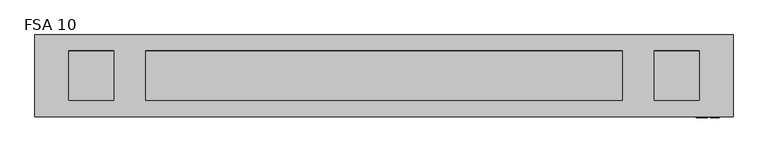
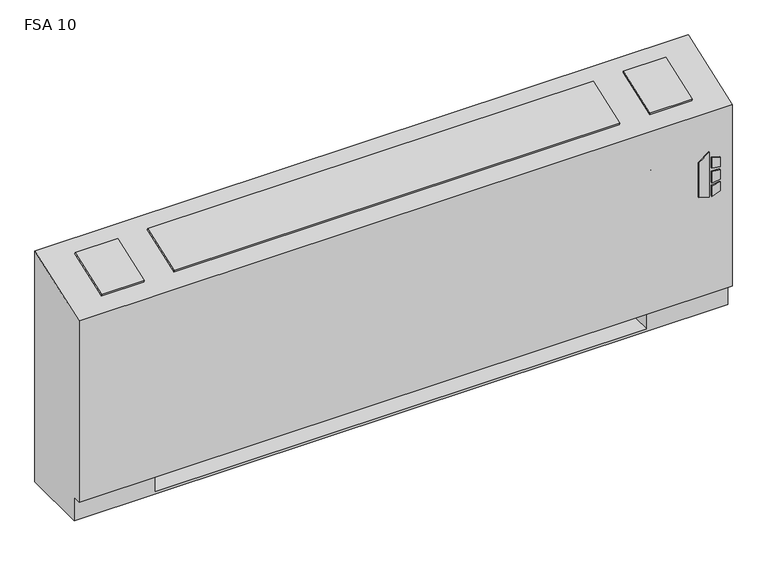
"""IFC4 building model written with IfcOpenShell, lengths in millimetres: proxy geometry, Vertical_Fan_Coil_Unit_-_FSA_-_IEC_-_4-Pipe_TS-FR_RH_2022 : FSA 10."""

from ifc_helpers import new_model, si_unit, point, frame, frame_2d, origin, place, context, project, spatial, polyline, circle_curve, trimmed, segment, composite_curve, outline, extrude, source, transform, mapped, element, save
from ifc_brep_helpers import plane_surface, revolved_surface, advanced_brep


def fsa_10_1d2db063(model_context):
    return source(origin(), model_context, "Body", "SolidModel", [
        extrude(outline(polyline([(391.6086829, 1027.1868862), (381.6606126, 1059.3602728), (523.831537, 1059.3602728), (500.8095309, 1027.1868862), (391.6086829, 1027.1868862)])), frame((0.0, 12.7, 0.0), z_axis=(0.0, 1.0, 0.0), x_axis=(0.0, 0.0, 1.0)), (0.0, 0.0, 1.0), 3.175),
        extrude(outline(polyline([(470.6079683, 1066.1186058), (467.4055757, 1092.2), (496.6344168, 1092.2), (504.6988318, 1066.1186058), (470.6079683, 1066.1186058)])), frame((0.0, 12.7, 0.0), z_axis=(0.0, 1.0, 0.0), x_axis=(0.0, 0.0, 1.0)), (0.0, 0.0, 1.0), 3.175),
        extrude(outline(polyline([(418.7444414, 1092.2), (415.0789404, 1066.1186058), (381.6606126, 1066.1186058), (390.2948498, 1092.2), (418.7444414, 1092.2)])), frame((0.0, 12.7, 0.0), z_axis=(0.0, 1.0, 0.0), x_axis=(0.0, 0.0, 1.0)), (0.0, 0.0, 1.0), 3.175),
        extrude(outline(polyline([(458.0596028, 1092.2), (460.3414292, 1066.1186058), (424.4038806, 1066.1186058), (427.1451456, 1092.2), (458.0596028, 1092.2)])), frame((0.0, 12.7, 0.0), z_axis=(0.0, 1.0, 0.0), x_axis=(0.0, 0.0, 1.0)), (0.0, 0.0, 1.0), 3.175),
        extrude(outline(polyline([(-704.85, 81.534), (-704.85, 223.266), (-584.2, 223.266), (-584.2, 81.534), (-704.85, 81.534)])), frame((0.0, 0.0, 327.025), z_axis=(0.0, 0.0, 1.0), x_axis=(1.0, 0.0, 0.0)), (0.0, 0.0, 1.0), 260.35),
        extrude(outline(composite_curve([segment(trimmed(circle_curve(frame_2d((952.5, 130.175)), 9.525), [point((942.975, 130.175))], [point((962.025, 130.175))], False, "CARTESIAN"), True, "CONTINUOUS"), segment(trimmed(circle_curve(frame_2d((952.5, 130.175)), 9.525), [point((962.025, 130.175))], [point((942.975, 130.175))], False, "CARTESIAN"), True, "CONTINUOUS")], self_intersect=False)), frame((0.0, 0.0, 101.6), z_axis=(0.0, 0.0, 1.0), x_axis=(1.0, 0.0, 0.0)), (0.0, 0.0, 1.0), 25.4),
        extrude(outline(polyline([(1054.1, 196.85), (1054.1, 63.5), (889.0, 63.5), (889.0, 196.85), (1054.1, 196.85)])), frame((0.0, 0.0, 127.0), z_axis=(0.0, 0.0, 1.0), x_axis=(1.0, 0.0, 0.0)), (0.0, 0.0, 1.0), 50.8),
        extrude(outline(polyline([(0.0, -146.0500001), (0.0, 0.0), (127.0, 0.0), (127.0, -146.0500001), (0.0, -146.0500001)])), frame((-731.393, 200.4217127, 714.3418685), z_axis=(0.0, -0.3396444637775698, 0.9405538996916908), x_axis=(1.0, 0.0, 0.0)), (0.0, 0.0, 1.0), 6.35),
        extrude(outline(polyline([(0.0, -146.0500001), (0.0, 0.0), (1333.5, 0.0), (1333.5, -146.0500001), (0.0, -146.0500001)])), frame((819.15, 63.0538156, 664.7367945), z_axis=(0.0, -0.33964446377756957, 0.9405538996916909), x_axis=(-1.0, 0.0, 0.0)), (0.0, 0.0, 1.0), 6.35),
        extrude(outline(polyline([(0.0, -146.0500001), (0.0, 0.0), (127.0, 0.0), (127.0, -146.0500001), (0.0, -146.0500001)])), frame((1036.193, 63.0538156, 664.7367945), z_axis=(0.0, -0.3396444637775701, 0.9405538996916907), x_axis=(-1.0, 0.0, 0.0)), (0.0, 0.0, 1.0), 6.35),
        extrude(outline(composite_curve([segment(trimmed(circle_curve(frame_2d((109.0168, 460.0194)), 7.9375), [point((109.0168, 467.9569))], [point((109.0168, 452.0819))], False, "CARTESIAN"), True, "CONTINUOUS"), segment(trimmed(circle_curve(frame_2d((109.0168, 460.0194)), 7.9375), [point((109.0168, 452.0819))], [point((109.0168, 467.9569))], False, "CARTESIAN"), True, "CONTINUOUS")], self_intersect=False)), frame((889.0, 0.0, 0.0), z_axis=(1.0, 0.0, 0.0), x_axis=(0.0, 1.0, 0.0)), (0.0, 0.0, 1.0), 50.8),
        extrude(outline(composite_curve([segment(trimmed(circle_curve(frame_2d((172.085, 460.0194)), 7.9375), [point((172.085, 467.9569))], [point((172.085, 452.0819))], False, "CARTESIAN"), True, "CONTINUOUS"), segment(trimmed(circle_curve(frame_2d((172.085, 460.0194)), 7.9375), [point((172.085, 452.0819))], [point((172.085, 467.9569))], False, "CARTESIAN"), True, "CONTINUOUS")], self_intersect=False)), frame((889.0, 0.0, 0.0), z_axis=(1.0, 0.0, 0.0), x_axis=(0.0, 1.0, 0.0)), (0.0, 0.0, 1.0), 50.8),
        extrude(outline(composite_curve([segment(trimmed(circle_curve(frame_2d((130.175, 554.99)), 7.9502), [point((130.175, 562.9402))], [point((130.175, 547.0398))], False, "CARTESIAN"), True, "CONTINUOUS"), segment(trimmed(circle_curve(frame_2d((130.175, 554.99)), 7.9502), [point((130.175, 547.0398))], [point((130.175, 562.9402))], False, "CARTESIAN"), True, "CONTINUOUS")], self_intersect=False)), frame((889.0, 0.0, 0.0), z_axis=(1.0, 0.0, 0.0), x_axis=(0.0, 1.0, 0.0)), (0.0, 0.0, 1.0), 50.8),
        extrude(outline(composite_curve([segment(trimmed(circle_curve(frame_2d((53.975, 416.56)), 7.9502), [point((53.975, 424.5102))], [point((53.975, 408.6098))], False, "CARTESIAN"), True, "CONTINUOUS"), segment(trimmed(circle_curve(frame_2d((53.975, 416.56)), 7.9502), [point((53.975, 408.6098))], [point((53.975, 424.5102))], False, "CARTESIAN"), True, "CONTINUOUS")], self_intersect=False)), frame((889.0, 0.0, 0.0), z_axis=(1.0, 0.0, 0.0), x_axis=(0.0, 1.0, 0.0)), (0.0, 0.0, 1.0), 50.8),
        advanced_brep(
        [(-825.5, 244.475, 0.0), (1130.3, 244.475, 0.0), (1130.3, 41.275, 0.0), (-825.5, 41.275, 0.0), (-825.5, 244.475, 730.25), (1130.3, 244.475, 730.25), (889.0, 244.475, 73.025), (1117.6, 244.475, 73.025), (1117.6, 244.475, 654.05), (889.0, 244.475, 654.05), (889.0, 244.475, 414.8650565), (917.575, 244.475, 414.8650565), (917.575, 244.475, 385.2349435), (889.0, 244.475, 385.2349435), (889.0, 244.475, 287.3375), (917.575, 244.475, 287.3375), (917.575, 244.475, 258.7625), (889.0, 244.475, 258.7625), (889.0, 244.475, 141.2875), (917.575, 244.475, 141.2875), (917.575, 244.475, 112.7125), (889.0, 244.475, 112.7125), (-584.2, 244.475, 654.05), (-812.8, 244.475, 654.05), (-812.8, 244.475, 73.025), (-584.2, 244.475, 73.025), (-584.2, 244.475, 112.7125), (-612.775, 244.475, 112.7125), (-612.775, 244.475, 141.2875), (-584.2, 244.475, 141.2875), (-584.2, 244.475, 258.7625), (-612.775, 244.475, 258.7625), (-612.775, 244.475, 287.3375), (-584.2, 244.475, 287.3375), (-584.2, 244.475, 385.2349435), (-612.775, 244.475, 385.2349435), (-612.775, 244.475, 414.8650565), (-584.2, 244.475, 414.8650565), (907.2626, 244.475, 127.0), (896.1374, 244.475, 127.0), (907.2626, 244.475, 400.05), (896.1374, 244.475, 400.05), (907.2626, 244.475, 273.05), (896.1374, 244.475, 273.05), (-591.3374, 244.475, 127.0), (-602.4626, 244.475, 127.0), (-591.3374, 244.475, 273.05), (-602.4626, 244.475, 273.05), (-591.3374, 244.475, 400.05), (-602.4626, 244.475, 400.05), (-825.5, 41.275, 73.025), (-825.5, 15.875, 73.025), (-825.5, 15.875, 647.7), (1130.3, 15.875, 73.025), (1130.3, 15.875, 647.7), (1130.3, 41.275, 73.025), (-584.2, 41.275, 73.025), (-584.2, 225.425, 73.025), (889.0, 225.425, 73.025), (889.0, 41.275, 73.025), (889.0, 41.275, 6.35), (-584.2, 41.275, 6.35), (889.0, 41.275, 654.05), (1117.6, 41.275, 654.05), (1117.6, 41.275, 73.025), (889.0, 41.275, 73.025), (-584.2, 41.275, 654.05), (-584.2, 41.275, 73.025), (-812.8, 41.275, 73.025), (-812.8, 41.275, 654.05), (889.0, 225.425, 73.025), (889.0, 238.125, 112.7125), (889.0, 238.125, 141.2875), (889.0, 238.125, 258.7625), (889.0, 238.125, 287.3375), (889.0, 238.125, 385.2349435), (889.0, 238.125, 414.8650565), (-584.2, 225.425, 73.025), (-584.2, 238.125, 414.8650565), (-584.2, 238.125, 385.2349435), (-584.2, 238.125, 287.3375), (-584.2, 238.125, 258.7625), (-584.2, 238.125, 141.2875), (-584.2, 238.125, 112.7125), (-584.2, 225.425, 6.35), (889.0, 225.425, 6.35), (917.575, 238.125, 112.7125), (917.575, 238.125, 141.2875), (896.1374, 238.125, 127.0), (907.2626, 238.125, 127.0), (917.575, 238.125, 258.7625), (917.575, 238.125, 287.3375), (896.1374, 238.125, 273.05), (907.2626, 238.125, 273.05), (917.575, 238.125, 385.2349435), (917.575, 238.125, 414.8650565), (896.1374, 238.125, 400.05), (907.2626, 238.125, 400.05), (-612.775, 238.125, 141.2875), (-612.775, 238.125, 112.7125), (-602.4626, 238.125, 127.0), (-591.3374, 238.125, 127.0), (-612.775, 238.125, 287.3375), (-612.775, 238.125, 258.7625), (-602.4626, 238.125, 273.05), (-591.3374, 238.125, 273.05), (-612.775, 238.125, 414.8650565), (-612.775, 238.125, 385.2349435), (-602.4626, 238.125, 400.05), (-591.3374, 238.125, 400.05)],
        [
            (0, 1),
            (1, 2),
            (2, 3),
            (3, 0),
            (0, 4),
            (4, 5),
            (5, 1),
            (6, 7),
            (7, 8),
            (8, 9),
            (9, 10),
            (10, 11),
            (11, 12),
            (12, 13),
            (13, 14),
            (14, 15),
            (15, 16),
            (16, 17),
            (17, 18),
            (18, 19),
            (19, 20),
            (20, 21),
            (21, 6),
            (22, 23),
            (23, 24),
            (24, 25),
            (25, 26),
            (26, 27),
            (27, 28),
            (28, 29),
            (29, 30),
            (30, 31),
            (31, 32),
            (32, 33),
            (33, 34),
            (34, 35),
            (35, 36),
            (36, 37),
            (37, 22),
            (38, 39, circle_curve(frame((901.7, 244.475, 127.0), z_axis=(0.0, -1.0, 0.0), x_axis=(-1.0, 0.0, 0.0)), 5.5626)),
            (39, 38, circle_curve(frame((901.7, 244.475, 127.0), z_axis=(0.0, -1.0, 0.0), x_axis=(-1.0, 0.0, 0.0)), 5.5626)),
            (40, 41, circle_curve(frame((901.7, 244.475, 400.05), z_axis=(0.0, -1.0, 0.0), x_axis=(-1.0, 0.0, 0.0)), 5.5626)),
            (41, 40, circle_curve(frame((901.7, 244.475, 400.05), z_axis=(0.0, -1.0, 0.0), x_axis=(-1.0, 0.0, 0.0)), 5.5626)),
            (42, 43, circle_curve(frame((901.7, 244.475, 273.05), z_axis=(0.0, -1.0, 0.0), x_axis=(-1.0, 0.0, 0.0)), 5.5626)),
            (43, 42, circle_curve(frame((901.7, 244.475, 273.05), z_axis=(0.0, -1.0, 0.0), x_axis=(-1.0, 0.0, 0.0)), 5.5626)),
            (44, 45, circle_curve(frame((-596.9, 244.475, 127.0), z_axis=(0.0, -1.0, 0.0), x_axis=(-1.0, 0.0, 0.0)), 5.5626)),
            (45, 44, circle_curve(frame((-596.9, 244.475, 127.0), z_axis=(0.0, -1.0, 0.0), x_axis=(-1.0, 0.0, 0.0)), 5.5626)),
            (46, 47, circle_curve(frame((-596.9, 244.475, 273.05), z_axis=(0.0, -1.0, 0.0), x_axis=(-1.0, 0.0, 0.0)), 5.5626)),
            (47, 46, circle_curve(frame((-596.9, 244.475, 273.05), z_axis=(0.0, -1.0, 0.0), x_axis=(-1.0, 0.0, 0.0)), 5.5626)),
            (48, 49, circle_curve(frame((-596.9, 244.475, 400.05), z_axis=(0.0, -1.0, 0.0), x_axis=(-1.0, 0.0, 0.0)), 5.5626)),
            (49, 48, circle_curve(frame((-596.9, 244.475, 400.05), z_axis=(0.0, -1.0, 0.0), x_axis=(-1.0, 0.0, 0.0)), 5.5626)),
            (3, 50),
            (50, 51),
            (51, 52),
            (52, 4),
            (51, 53),
            (53, 54),
            (54, 52),
            (5, 54),
            (53, 55),
            (55, 2),
            (50, 56),
            (56, 57),
            (57, 58),
            (58, 59),
            (59, 55),
            (59, 60),
            (60, 61),
            (61, 56),
            (62, 63),
            (63, 64),
            (64, 65),
            (65, 62),
            (66, 67),
            (67, 68),
            (68, 69),
            (69, 66),
            (65, 70),
            (70, 6),
            (21, 71),
            (71, 72),
            (72, 18),
            (17, 73),
            (73, 74),
            (74, 14),
            (13, 75),
            (75, 76),
            (76, 10),
            (9, 62),
            (64, 7),
            (63, 8),
            (69, 23),
            (22, 66),
            (68, 24),
            (67, 77),
            (77, 25),
            (37, 78),
            (78, 79),
            (79, 34),
            (33, 80),
            (80, 81),
            (81, 30),
            (29, 82),
            (82, 83),
            (83, 26),
            (57, 84),
            (84, 85),
            (85, 58),
            (85, 60),
            (84, 61),
            (71, 86),
            (86, 87),
            (87, 72),
            (88, 89, circle_curve(frame((901.7, 238.125, 127.0), z_axis=(0.0, 1.0, 0.0), x_axis=(-1.0, 0.0, 0.0)), 5.5626)),
            (89, 88, circle_curve(frame((901.7, 238.125, 127.0), z_axis=(0.0, 1.0, 0.0), x_axis=(-1.0, 0.0, 0.0)), 5.5626)),
            (73, 90),
            (90, 91),
            (91, 74),
            (92, 93, circle_curve(frame((901.7, 238.125, 273.05), z_axis=(0.0, 1.0, 0.0), x_axis=(-1.0, 0.0, 0.0)), 5.5626)),
            (93, 92, circle_curve(frame((901.7, 238.125, 273.05), z_axis=(0.0, 1.0, 0.0), x_axis=(-1.0, 0.0, 0.0)), 5.5626)),
            (75, 94),
            (94, 95),
            (95, 76),
            (96, 97, circle_curve(frame((901.7, 238.125, 400.05), z_axis=(0.0, 1.0, 0.0), x_axis=(-1.0, 0.0, 0.0)), 5.5626)),
            (97, 96, circle_curve(frame((901.7, 238.125, 400.05), z_axis=(0.0, 1.0, 0.0), x_axis=(-1.0, 0.0, 0.0)), 5.5626)),
            (98, 99),
            (99, 83),
            (82, 98),
            (100, 101, circle_curve(frame((-596.9, 238.125, 127.0), z_axis=(0.0, 1.0, 0.0), x_axis=(-1.0, 0.0, 0.0)), 5.5626)),
            (101, 100, circle_curve(frame((-596.9, 238.125, 127.0), z_axis=(0.0, 1.0, 0.0), x_axis=(-1.0, 0.0, 0.0)), 5.5626)),
            (102, 103),
            (103, 81),
            (80, 102),
            (104, 105, circle_curve(frame((-596.9, 238.125, 273.05), z_axis=(0.0, 1.0, 0.0), x_axis=(-1.0, 0.0, 0.0)), 5.5626)),
            (105, 104, circle_curve(frame((-596.9, 238.125, 273.05), z_axis=(0.0, 1.0, 0.0), x_axis=(-1.0, 0.0, 0.0)), 5.5626)),
            (106, 107),
            (107, 79),
            (78, 106),
            (108, 109, circle_curve(frame((-596.9, 238.125, 400.05), z_axis=(0.0, 1.0, 0.0), x_axis=(-1.0, 0.0, 0.0)), 5.5626)),
            (109, 108, circle_curve(frame((-596.9, 238.125, 400.05), z_axis=(0.0, 1.0, 0.0), x_axis=(-1.0, 0.0, 0.0)), 5.5626)),
            (87, 19),
            (86, 20),
            (91, 15),
            (90, 16),
            (95, 11),
            (94, 12),
            (28, 98),
            (99, 27),
            (32, 102),
            (103, 31),
            (36, 106),
            (107, 35),
            (88, 39),
            (38, 89),
            (96, 41),
            (40, 97),
            (92, 43),
            (42, 93),
            (100, 45),
            (44, 101),
            (104, 47),
            (46, 105),
            (108, 49),
            (48, 109),
        ],
        [
            plane_surface(frame((-825.5, 244.475, 0.0), z_axis=(0.0, 0.0, -1.0), x_axis=(1.0, 0.0, 0.0))),
            plane_surface(frame((1130.3, 244.475, 730.25), z_axis=(0.0, 1.0, 0.0), x_axis=(0.0, 0.0, -1.0))),
            plane_surface(frame((-825.5, 244.475, 730.25), z_axis=(-1.0, 0.0, 0.0), x_axis=(0.0, 0.0, -1.0))),
            plane_surface(frame((-825.5, 15.875, 730.25), z_axis=(0.0, -1.0, 0.0), x_axis=(0.0, 0.0, -1.0))),
            plane_surface(frame((1130.3, 15.875, 730.25), z_axis=(1.0, 0.0, 0.0), x_axis=(0.0, 0.0, -1.0))),
            plane_surface(frame((-825.5, 15.875, 73.025), z_axis=(0.0, 0.0, -1.0), x_axis=(1.0, 0.0, 0.0))),
            plane_surface(frame((-825.5, 41.275, 73.025), z_axis=(0.0, -1.0, 0.0), x_axis=(1.0, 0.0, 0.0))),
            plane_surface(frame((889.0, 41.275, 654.05), z_axis=(0.0, 1.0, 0.0), x_axis=(0.0, 0.0, -1.0))),
            plane_surface(frame((889.0, 41.275, 654.05), z_axis=(1.0, 0.0, 0.0), x_axis=(0.0, 1.0, 0.0))),
            plane_surface(frame((889.0, 41.275, 73.025), z_axis=(0.0, 0.0, 1.0), x_axis=(0.0, 1.0, 0.0))),
            plane_surface(frame((1117.6, 41.275, 73.025), z_axis=(-1.0, 0.0, 0.0), x_axis=(0.0, 1.0, 0.0))),
            plane_surface(frame((1117.6, 41.275, 654.05), z_axis=(0.0, 0.0, -1.0), x_axis=(0.0, 1.0, 0.0))),
            plane_surface(frame((-584.2, 41.275, 654.05), z_axis=(0.0, 0.0, -1.0), x_axis=(0.0, 1.0, 0.0))),
            plane_surface(frame((-812.8, 41.275, 654.05), z_axis=(1.0, 0.0, 0.0), x_axis=(0.0, 1.0, 0.0))),
            plane_surface(frame((-812.8, 41.275, 73.025), z_axis=(0.0, 0.0, 1.0), x_axis=(0.0, 1.0, 0.0))),
            plane_surface(frame((-584.2, 41.275, 73.025), z_axis=(-1.0, 0.0, 0.0), x_axis=(0.0, 1.0, 0.0))),
            plane_surface(frame((889.0, 225.425, 73.025), z_axis=(0.0, -1.0, 0.0), x_axis=(0.0, 0.0, -1.0))),
            plane_surface(frame((889.0, 225.425, 73.025), z_axis=(-1.0, 0.0, 0.0), x_axis=(0.0, -1.0, 0.0))),
            plane_surface(frame((889.0, 225.425, 6.35), z_axis=(0.0, 0.0, 1.0), x_axis=(0.0, -1.0, 0.0))),
            plane_surface(frame((-584.2, 225.425, 6.35), z_axis=(1.0, 0.0, 0.0), x_axis=(0.0, -1.0, 0.0))),
            plane_surface(frame((917.575, 238.125, 141.2875), z_axis=(0.0, -1.0, 0.0), x_axis=(-1.0, 0.0, 0.0))),
            plane_surface(frame((889.0, 244.475, 141.2875), z_axis=(0.0, 0.0, 1.0), x_axis=(0.0, -1.0, 0.0))),
            plane_surface(frame((917.575, 244.475, 141.2875), z_axis=(1.0, 0.0, 0.0), x_axis=(0.0, -1.0, 0.0))),
            plane_surface(frame((917.575, 244.475, 112.7125), z_axis=(0.0, 0.0, -1.0), x_axis=(0.0, -1.0, 0.0))),
            plane_surface(frame((889.0, 244.475, 287.3375), z_axis=(0.0, 0.0, 1.0), x_axis=(0.0, -1.0, 0.0))),
            plane_surface(frame((917.575, 244.475, 287.3375), z_axis=(1.0, 0.0, 0.0), x_axis=(0.0, -1.0, 0.0))),
            plane_surface(frame((917.575, 244.475, 258.7625), z_axis=(0.0, 0.0, -1.0), x_axis=(0.0, -1.0, 0.0))),
            plane_surface(frame((889.0, 244.475, 414.8650565), z_axis=(0.0, 0.0, 1.0), x_axis=(0.0, -1.0, 0.0))),
            plane_surface(frame((917.575, 244.475, 414.8650565), z_axis=(1.0, 0.0, 0.0), x_axis=(0.0, -1.0, 0.0))),
            plane_surface(frame((917.575, 244.475, 385.2349435), z_axis=(0.0, 0.0, -1.0), x_axis=(0.0, -1.0, 0.0))),
            plane_surface(frame((-612.775, 244.475, 141.2875), z_axis=(0.0, 0.0, 1.0), x_axis=(0.0, -1.0, 0.0))),
            plane_surface(frame((-584.2, 244.475, 112.7125), z_axis=(0.0, 0.0, -1.0), x_axis=(0.0, -1.0, 0.0))),
            plane_surface(frame((-612.775, 244.475, 112.7125), z_axis=(-1.0, 0.0, 0.0), x_axis=(0.0, -1.0, 0.0))),
            plane_surface(frame((-612.775, 244.475, 287.3375), z_axis=(0.0, 0.0, 1.0), x_axis=(0.0, -1.0, 0.0))),
            plane_surface(frame((-584.2, 244.475, 258.7625), z_axis=(0.0, 0.0, -1.0), x_axis=(0.0, -1.0, 0.0))),
            plane_surface(frame((-612.775, 244.475, 258.7625), z_axis=(-1.0, 0.0, 0.0), x_axis=(0.0, -1.0, 0.0))),
            plane_surface(frame((-612.775, 244.475, 414.8650565), z_axis=(0.0, 0.0, 1.0), x_axis=(0.0, -1.0, 0.0))),
            plane_surface(frame((-584.2, 244.475, 385.2349435), z_axis=(0.0, 0.0, -1.0), x_axis=(0.0, -1.0, 0.0))),
            plane_surface(frame((-612.775, 244.475, 385.2349435), z_axis=(-1.0, 0.0, 0.0), x_axis=(0.0, -1.0, 0.0))),
            revolved_surface(polyline([(896.1374000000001, 238.125, 127.0), (896.1374000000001, 244.475, 127.0)]), (901.7, 244.475, 127.0), (0.0, -1.0, 0.0)),
            revolved_surface(polyline([(896.1374000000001, 238.125, 400.05), (896.1374000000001, 244.475, 400.05)]), (901.7, 244.475, 400.05), (0.0, -1.0, 0.0)),
            revolved_surface(polyline([(896.1374000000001, 238.125, 273.05), (896.1374000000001, 244.475, 273.05)]), (901.7, 244.475, 273.05), (0.0, -1.0, 0.0)),
            revolved_surface(polyline([(-602.4626, 238.125, 127.0), (-602.4626, 244.475, 127.0)]), (-596.9, 244.475, 127.0), (0.0, -1.0, 0.0)),
            revolved_surface(polyline([(-602.4626, 238.125, 273.05), (-602.4626, 244.475, 273.05)]), (-596.9, 244.475, 273.05), (0.0, -1.0, 0.0)),
            revolved_surface(polyline([(-602.4626, 238.125, 400.05), (-602.4626, 244.475, 400.05)]), (-596.9, 244.475, 400.05), (0.0, -1.0, 0.0)),
            plane_surface(frame((-825.5, 244.475, 730.25), z_axis=(0.0, -0.33964446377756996, 0.9405538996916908), x_axis=(1.0, 0.0, 0.0))),
        ],
        [
            (0, [[1, 2, 3, 4]]),
            (1, [[-1, 5, 6, 7], [8, 9, 10, 11, 12, 13, 14, 15, 16, 17, 18, 19, 20, 21, 22, 23], [24, 25, 26, 27, 28, 29, 30, 31, 32, 33, 34, 35, 36, 37, 38, 39], [40, 41], [42, 43], [44, 45], [46, 47], [48, 49], [50, 51]]),
            (2, [[-5, -4, 52, 53, 54, 55]]),
            (3, [[56, 57, 58, -54]]),
            (4, [[-7, 59, -57, 60, 61, -2]]),
            (5, [[-53, 62, 63, 64, 65, 66, -60, -56]]),
            (6, [[-3, -61, -66, 67, 68, 69, -62, -52]]),
            (7, [[70, 71, 72, 73]]),
            (7, [[74, 75, 76, 77]]),
            (8, [[-73, 78, 79, -23, 80, 81, 82, -19, 83, 84, 85, -15, 86, 87, 88, -11, 89]]),
            (9, [[-72, 90, -8, -79, -78]]),
            (10, [[-71, 91, -9, -90]]),
            (11, [[-70, -89, -10, -91]]),
            (12, [[-77, 92, -24, 93]]),
            (13, [[-76, 94, -25, -92]]),
            (14, [[-75, 95, 96, -26, -94]]),
            (15, [[-74, -93, -39, 97, 98, 99, -35, 100, 101, 102, -31, 103, 104, 105, -27, -96, -95]]),
            (16, [[-64, 106, 107, 108]]),
            (17, [[-108, 109, -67, -65]]),
            (18, [[-107, 110, -68, -109]]),
            (19, [[-106, -63, -69, -110]]),
            (20, [[111, 112, 113, -81], [114, 115]]),
            (20, [[116, 117, 118, -84], [119, 120]]),
            (20, [[121, 122, 123, -87], [124, 125]]),
            (20, [[126, 127, -104, 128], [129, 130]]),
            (20, [[131, 132, -101, 133], [134, 135]]),
            (20, [[136, 137, -98, 138], [139, 140]]),
            (21, [[-113, 141, -20, -82]]),
            (22, [[-112, 142, -21, -141]]),
            (23, [[-111, -80, -22, -142]]),
            (24, [[-118, 143, -16, -85]]),
            (25, [[-117, 144, -17, -143]]),
            (26, [[-116, -83, -18, -144]]),
            (27, [[-123, 145, -12, -88]]),
            (28, [[-122, 146, -13, -145]]),
            (29, [[-121, -86, -14, -146]]),
            (30, [[-128, -103, -30, 147]]),
            (31, [[-127, 148, -28, -105]]),
            (32, [[-126, -147, -29, -148]]),
            (33, [[-133, -100, -34, 149]]),
            (34, [[-132, 150, -32, -102]]),
            (35, [[-131, -149, -33, -150]]),
            (36, [[-138, -97, -38, 151]]),
            (37, [[-137, 152, -36, -99]]),
            (38, [[-136, -151, -37, -152]]),
            (39, [[153, -40, 154, -114]]),
            (39, [[-153, -115, -154, -41]]),
            (40, [[155, -42, 156, -124]]),
            (40, [[-155, -125, -156, -43]]),
            (41, [[157, -44, 158, -119]]),
            (41, [[-157, -120, -158, -45]]),
            (42, [[159, -46, 160, -129]]),
            (42, [[-159, -130, -160, -47]]),
            (43, [[161, -48, 162, -134]]),
            (43, [[-161, -135, -162, -49]]),
            (44, [[163, -50, 164, -139]]),
            (44, [[-163, -140, -164, -51]]),
            (45, [[-6, -55, -58, -59]]),
        ],
    ),
    ])


if __name__ == "__main__":
    model = new_model("IFC4")
    model_context = context("Model", 3, world=origin())
    ifc_project = project(units=[si_unit("LENGTHUNIT", "METRE", prefix="MILLI")], contexts=[model_context])
    site = spatial("IfcSite", under=ifc_project)
    building = spatial("IfcBuilding", under=site)
    placement = place(None, origin())
    fsa_10_shape = fsa_10_1d2db063(model_context)
    element("IfcBuildingElementProxy", 1, Name="Vertical_Fan_Coil_Unit_-_FSA_-_IEC_-_4-Pipe_TS-FR_RH_2022 : FSA 10", ObjectType="Vertical_Fan_Coil_Unit_-_FSA_-_IEC_-_4-Pipe_TS-FR_RH_2022 : FSA 10", at=placement, inside=building, context=model_context, shape_type="MappedRepresentation", body=[
        mapped(fsa_10_shape, transform((0.0, 0.0, 0.0), x_axis=(1.0, 0.0, 0.0), y_axis=(0.0, 1.0, 0.0), z_axis=(0.0, 0.0, 1.0))),
    ])
    save(model, "model.ifc")
